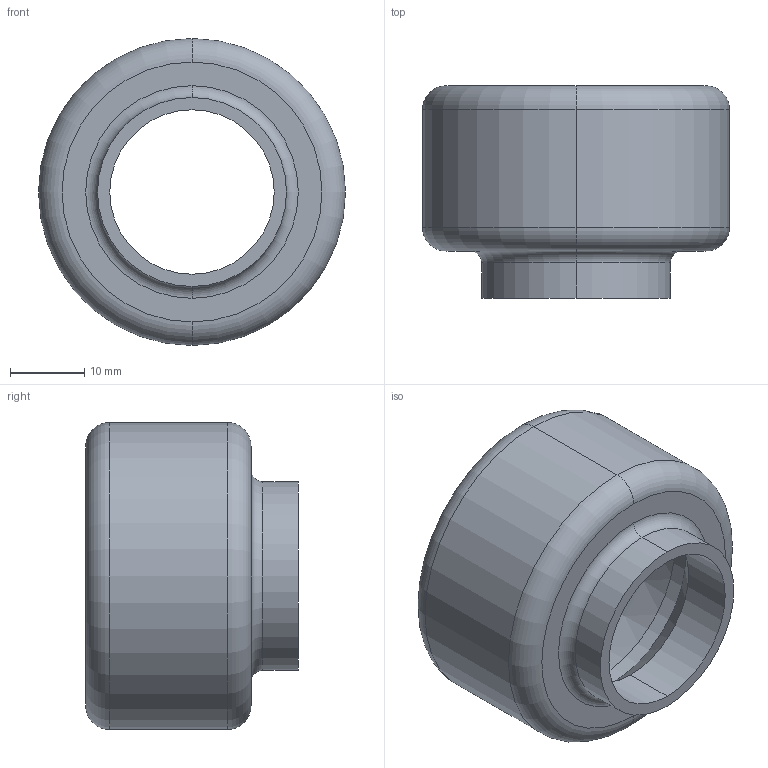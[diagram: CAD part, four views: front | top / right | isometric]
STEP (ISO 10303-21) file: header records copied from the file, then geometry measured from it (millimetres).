
FILE_DESCRIPTION (( 'STEP AP214' ), '1' );
FILE_NAME ('22WB1.0 REV1.STEP', '2025-06-12T16:05:16', ( '' ), ( '' ), 'SwSTEP 2.0', 'SolidWorks 2022', '' );
FILE_SCHEMA (( 'AUTOMOTIVE_DESIGN' ));
Length unit declared in the file: inch
Products named in the file (1): 22WB1.0 REV1
Bounding box: 41.27 x 28.57 x 41.27 mm (x, y, z)
Volume: 14138.3 mm3; surface area: 7100.2 mm2
Topology: 1 solids, 1 shells, 22 faces, 44 edges, 26 vertices
Faces by surface type: cylinder 8, torus 6, cone 4, plane 4
Entity records: 624 total; most frequent: DIRECTION 122, CARTESIAN_POINT 93, ORIENTED_EDGE 88, AXIS2_PLACEMENT_3D 55, EDGE_CURVE 44, CIRCLE 32, VERTEX_POINT 26, EDGE_LOOP 26
